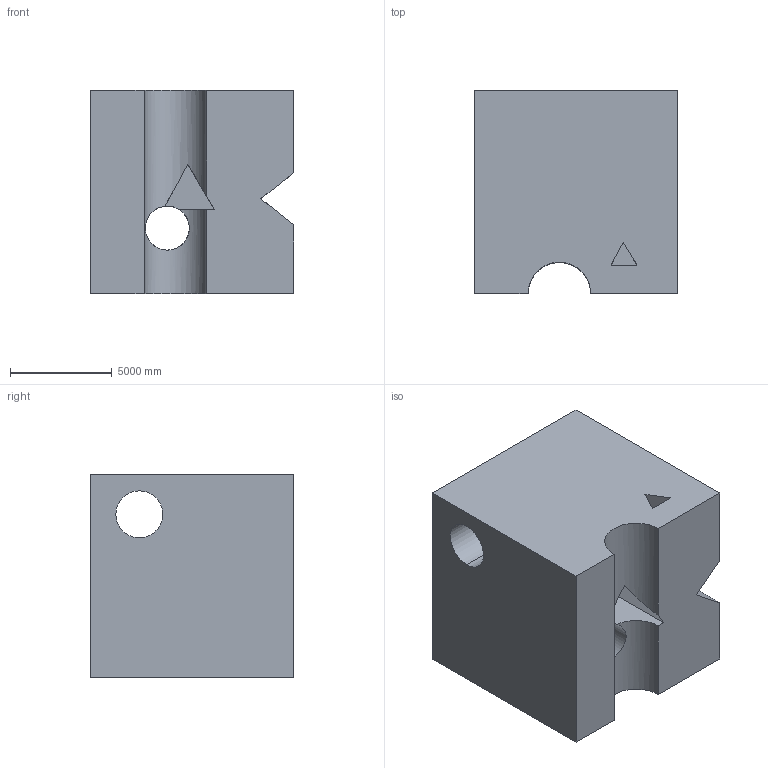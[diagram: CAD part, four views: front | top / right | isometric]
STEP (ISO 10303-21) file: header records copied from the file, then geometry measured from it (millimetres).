
FILE_DESCRIPTION (( 'STEP AP203' ), '1' );
FILE_NAME ('660.STEP', '2022-07-29T12:21:59', ( 'user' ), ( '' ), 'SwSTEP 2.0', 'SolidWorks 2021', '' );
FILE_SCHEMA (( 'CONFIG_CONTROL_DESIGN' ));
Length unit declared in the file: centimetre
Products named in the file (1): 660
Bounding box: 10000 x 10000 x 10000 mm (x, y, z)
Volume: 843832591596.8 mm3; surface area: 796989484.1 mm2
Topology: 1 solids, 1 shells, 31 faces, 87 edges, 58 vertices
Faces by surface type: plane 26, cylinder 5
Entity records: 1363 total; most frequent: CARTESIAN_POINT 473, ORIENTED_EDGE 174, DIRECTION 158, EDGE_CURVE 87, VECTOR 72, LINE 72, VERTEX_POINT 58, AXIS2_PLACEMENT_3D 43
